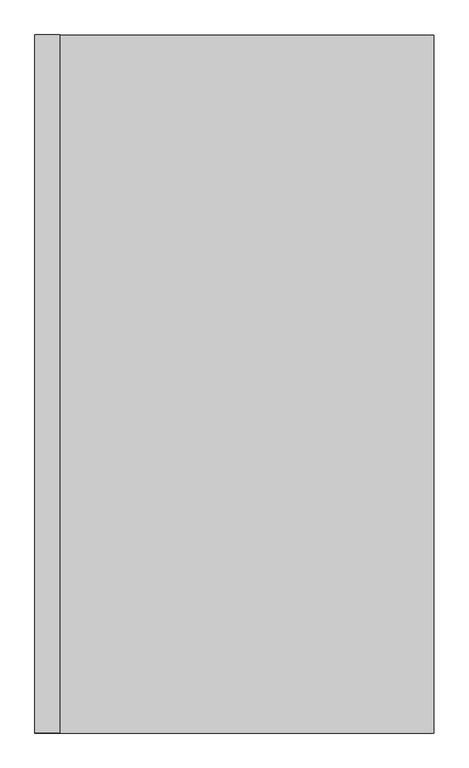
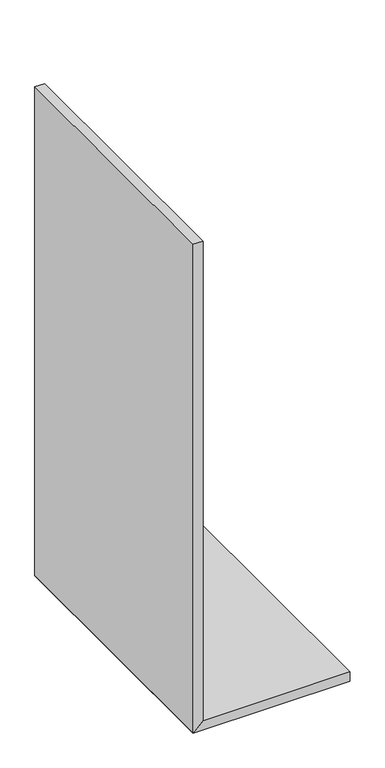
"""IFC4 building model written with IfcOpenShell, lengths in millimetres: proxy geometry, FOUNDATION^OPEN OFFICE 1_42x79x24 RIGHT GALLERY WALL-PARTS SOLID."""

import ifcopenshell
import ifcopenshell.guid

model = None  # the IFC model being written
_history = None  # IfcOwnerHistory: only IFC2X3 demands one
_inside = {}  # id of a spatial element -> (the spatial element, [elements in it])
_under = {}  # id of a project, library or spatial element -> (it, [spatial elements below it])
_declared = {}  # id of a project -> (the project, [libraries it declares])
_typed = {}  # id of a type object -> (the type object, [elements of that type])
_made_of = {}  # id of a material, layer set ... -> (it, [elements and type objects made of it])


def new_model(schema):
    """Start an empty IFC model of exactly this schema.

    Asked for "IFC4X3", IfcOpenShell would pick the latest addendum, in which some entities
    have other attributes; the version numbers below select the first issue.
    IFC2X3 requires an IfcOwnerHistory on every rooted entity: one is made here for all.
    """
    global model, _history
    if schema == "IFC4X3":
        model = ifcopenshell.file(schema_version=(4, 3, 0, 0))
    else:
        model = ifcopenshell.file(schema=schema)
    _inside.clear()
    _under.clear()
    _declared.clear()
    _typed.clear()
    _made_of.clear()
    _history = None
    if model.schema == "IFC2X3":
        org = make("IfcOrganization", Name="unknown")
        user = make(
            "IfcPersonAndOrganization",
            ThePerson=make("IfcPerson", FamilyName="unknown"),
            TheOrganization=org,
        )
        app = make(
            "IfcApplication",
            ApplicationDeveloper=org,
            Version="unknown",
            ApplicationFullName="unknown",
            ApplicationIdentifier="unknown",
        )
        _history = make(
            "IfcOwnerHistory",
            OwningUser=user,
            OwningApplication=app,
            ChangeAction="ADDED",
            CreationDate=0,
        )
    return model


def make(cls, **values):
    """One entity of the class cls with the attributes given. An attribute that is None is left unset."""
    return model.create_entity(
        cls, **{name: value for name, value in values.items() if value is not None}
    )


def rooted(cls, **values):
    """An entity with a GlobalId (a new one), such as an element, a storey or a relation."""
    return make(cls, GlobalId=ifcopenshell.guid.new(), OwnerHistory=_history, **values)


def si_unit(unit_type, name, prefix=None):
    """IfcSIUnit, for example si_unit("LENGTHUNIT", "METRE", prefix="MILLI")."""
    return make("IfcSIUnit", UnitType=unit_type, Prefix=prefix, Name=name)


def assignment(units):
    """IfcUnitAssignment: the units of a project."""
    return None if units is None else make("IfcUnitAssignment", Units=units)


def point(xyz):
    """IfcCartesianPoint."""
    return None if xyz is None else make("IfcCartesianPoint", Coordinates=xyz)


def direction(xyz):
    """IfcDirection."""
    return None if xyz is None else make("IfcDirection", DirectionRatios=xyz)


def frame(location, z_axis=None, x_axis=None):
    """IfcAxis2Placement3D, a coordinate frame: its origin and axes. An axis left out is left unset."""
    return make(
        "IfcAxis2Placement3D",
        Location=point(location),
        Axis=direction(z_axis),
        RefDirection=direction(x_axis),
    )


def origin():
    """The frame at (0, 0, 0) with its axes left unset."""
    return frame((0.0, 0.0, 0.0))


def place(relative_to, where):
    """IfcLocalPlacement: puts the frame where relative to a parent placement (None: the world)."""
    return make(
        "IfcLocalPlacement", PlacementRelTo=relative_to, RelativePlacement=where
    )


def context(
    kind, dimensions, precision=None, world=None, true_north=None, identifier=None
):
    """IfcGeometricRepresentationContext, for example the 3D "Model" context."""
    return make(
        "IfcGeometricRepresentationContext",
        ContextIdentifier=identifier,
        ContextType=kind,
        CoordinateSpaceDimension=dimensions,
        Precision=precision,
        WorldCoordinateSystem=world,
        TrueNorth=true_north,
    )


def project(units=None, contexts=None):
    """IfcProject with its units and contexts."""
    return rooted(
        "IfcProject",
        Name="project",
        RepresentationContexts=contexts,
        UnitsInContext=assignment(units),
    )


def spatial(cls, under=None, at=None, **own):
    """A site, building, storey or space (cls), placed at a placement, below another one or the project."""
    s = rooted(cls, ObjectPlacement=at, **own)
    if under is not None:
        _under.setdefault(under.id(), (under, []))[1].append(s)
    return s


def polyline(points):
    """IfcPolyline through the points."""
    return make("IfcPolyline", Points=[point(p) for p in points])


def outline(outer, holes=None, kind="AREA"):
    """IfcArbitraryClosedProfileDef: a profile drawn as a closed curve; with holes, ...WithVoids."""
    if holes is None:
        return make("IfcArbitraryClosedProfileDef", ProfileType=kind, OuterCurve=outer)
    return make(
        "IfcArbitraryProfileDefWithVoids",
        ProfileType=kind,
        OuterCurve=outer,
        InnerCurves=holes,
    )


def extrude(swept, where, along, depth):
    """IfcExtrudedAreaSolid: the profile swept, set in the frame where, extruded along a direction by depth."""
    return make(
        "IfcExtrudedAreaSolid",
        SweptArea=swept,
        Position=where,
        ExtrudedDirection=direction(along),
        Depth=depth,
    )


def shape(context_of_items, identifier, shape_type, items):
    """IfcShapeRepresentation: the items that make up one representation, for example the "Body"."""
    return make(
        "IfcShapeRepresentation",
        ContextOfItems=context_of_items,
        RepresentationIdentifier=identifier,
        RepresentationType=shape_type,
        Items=items,
    )


def source(mapping_origin, context_of_items, identifier, shape_type, items):
    """IfcRepresentationMap: a shape defined once, which mapped items show again and again."""
    return make(
        "IfcRepresentationMap",
        MappingOrigin=mapping_origin,
        MappedRepresentation=shape(context_of_items, identifier, shape_type, items),
    )


def transform(
    local_origin,
    x_axis=None,
    y_axis=None,
    z_axis=None,
    scale=None,
    scale2=None,
    scale3=None,
    uniform=True,
):
    """IfcCartesianTransformationOperator3D, or its non-uniform kind. x_axis, y_axis, z_axis: its Axis1, 2, 3."""
    if uniform:
        return make(
            "IfcCartesianTransformationOperator3D",
            Axis1=direction(x_axis),
            Axis2=direction(y_axis),
            LocalOrigin=point(local_origin),
            Scale=scale,
            Axis3=direction(z_axis),
        )
    return make(
        "IfcCartesianTransformationOperator3DnonUniform",
        Axis1=direction(x_axis),
        Axis2=direction(y_axis),
        LocalOrigin=point(local_origin),
        Scale=scale,
        Axis3=direction(z_axis),
        Scale2=scale2,
        Scale3=scale3,
    )


def mapped(mapping_source, mapping_target):
    """IfcMappedItem: shows the shape of a source again, moved by a transform."""
    return make(
        "IfcMappedItem", MappingSource=mapping_source, MappingTarget=mapping_target
    )


def made_of(thing, what):
    """Note that an element or type object is made of a material, layer set ...; save() writes the relation."""
    if what is not None:
        _made_of.setdefault(what.id(), (what, []))[1].append(thing)
    return thing


def element(
    cls,
    number,
    at=None,
    inside=None,
    cuts=None,
    type_object=None,
    material=None,
    context=None,
    identifier="Body",
    shape_type=None,
    held_by="IfcProductDefinitionShape",
    body=None,
    shapes=None,
    **own,
):
    """One element of the class cls, such as IfcWall. Its Tag is "e" and its number.

    at: its placement. inside: the storey or other place that contains it. cuts: it is an
    opening in that element (IfcRelVoidsElement). A single representation is given by context,
    identifier, shape_type and body (its items); several are given by shapes. held_by: the class
    of the entity that holds the representations. save() writes the other relations.
    """
    e = rooted(cls, Tag="e%d" % number, ObjectPlacement=at, **own)
    if body is not None:
        shapes = [shape(context, identifier, shape_type, body)]
    if shapes is not None:
        e.Representation = make(held_by, Representations=shapes)
    if inside is not None:
        _inside.setdefault(inside.id(), (inside, []))[1].append(e)
    if cuts is not None:
        rooted(
            "IfcRelVoidsElement", RelatingBuildingElement=cuts, RelatedOpeningElement=e
        )
    if type_object is not None:
        _typed.setdefault(type_object.id(), (type_object, []))[1].append(e)
    return made_of(e, material)


def aggregate(whole, parts):
    """IfcRelAggregates: a whole, such as a stair, and the parts it consists of."""
    return rooted("IfcRelAggregates", RelatingObject=whole, RelatedObjects=parts)


def save(model, path):
    """Write the relations noted so far, then the file.

    IfcRelAggregates (storeys below a building ...), IfcRelContainedInSpatialStructure (elements
    in a storey), IfcRelDefinesByType, IfcRelAssociatesMaterial and IfcRelDeclares: one each for
    every whole, place, type object, material and project.
    """
    for whole, parts in _under.values():
        aggregate(whole, parts)
    for where, things in _inside.values():
        rooted(
            "IfcRelContainedInSpatialStructure",
            RelatedElements=things,
            RelatingStructure=where,
        )
    for kind, things in _typed.values():
        rooted("IfcRelDefinesByType", RelatedObjects=things, RelatingType=kind)
    for what, things in _made_of.values():
        rooted("IfcRelAssociatesMaterial", RelatedObjects=things, RelatingMaterial=what)
    for by, libraries in _declared.values():
        rooted("IfcRelDeclares", RelatingContext=by, RelatedDefinitions=libraries)
    model.write(path)


def generic_models_e249cb2d(model_context):
    return source(origin(), model_context, "Body", "SweptSolid", [
        extrude(outline(polyline([(-2006.6, 0.0), (-1968.5, 38.1), (0.0, 38.1), (0.0, 0.0), (-2006.6, 0.0)])), frame((0.0, 0.0, 0.0), z_axis=(0.0, 1.0, 0.0), x_axis=(0.0, 0.0, 1.0)), (0.0, 0.0, 1.0), 1066.8),
        extrude(outline(polyline([(-2006.6, 609.6), (-1968.5, 609.6), (-1968.5, 38.1), (-2006.6, 0.0), (-2006.6, 609.6)])), frame((0.0, 0.0, 0.0), z_axis=(0.0, 1.0, 0.0), x_axis=(0.0, 0.0, 1.0)), (0.0, 0.0, 1.0), 1066.8),
    ])


if __name__ == "__main__":
    model = new_model("IFC4")
    model_context = context("Model", 3, world=origin())
    ifc_project = project(units=[si_unit("LENGTHUNIT", "METRE", prefix="MILLI")], contexts=[model_context])
    site = spatial("IfcSite", under=ifc_project)
    building = spatial("IfcBuilding", under=site)
    placement = place(None, origin())
    generic_models_shape = generic_models_e249cb2d(model_context)
    element("IfcBuildingElementProxy", 1, Name="FOUNDATION^OPEN OFFICE 1_42x79x24 RIGHT GALLERY WALL-PARTS SOLID", ObjectType="FOUNDATION^OPEN OFFICE 1_42x79x24 RIGHT GALLERY WALL-PARTS SOLID", at=placement, inside=building, context=model_context, shape_type="MappedRepresentation", body=[
        mapped(generic_models_shape, transform((0.0, 0.0, 0.0), x_axis=(1.0, 0.0, 0.0), y_axis=(0.0, 1.0, 0.0), z_axis=(0.0, 0.0, 1.0))),
    ])
    save(model, "model.ifc")
